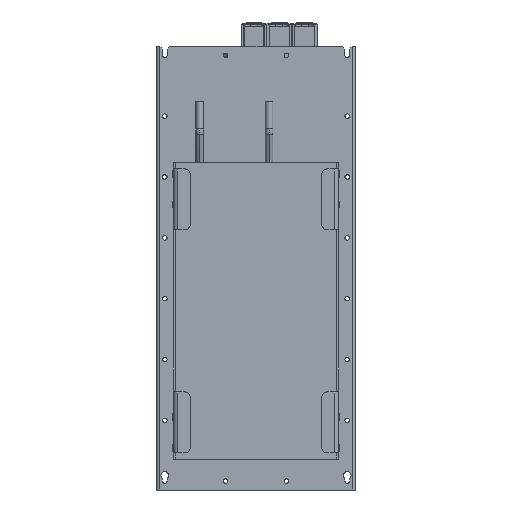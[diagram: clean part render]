
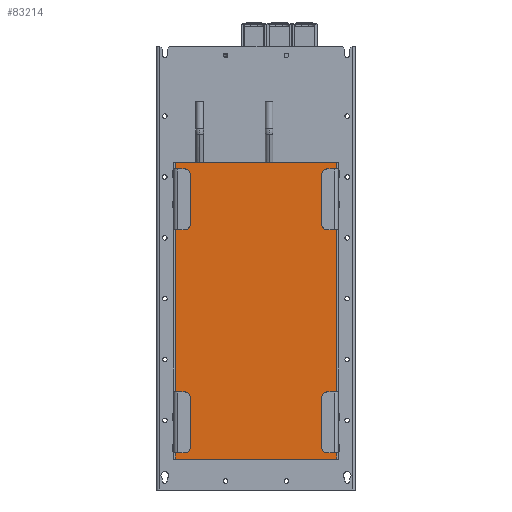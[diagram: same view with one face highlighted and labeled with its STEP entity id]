
A CAD part, front view. The second image highlights one B-rep face of the part: STEP entity #83214.
In plain terms, the highlighted planar face has unit normal (0, -1, 0).
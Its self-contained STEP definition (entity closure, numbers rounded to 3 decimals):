
#1745 = CARTESIAN_POINT ( 'NONE',  ( -159., 0., 12.5 ) ) ;
#3684 = EDGE_CURVE ( 'NONE', #83213, #84355, #56949, .T. ) ;
#4075 = VECTOR ( 'NONE', #72532, 1000. ) ;
#6807 = VECTOR ( 'NONE', #24276, 1000. ) ;
#8204 = ORIENTED_EDGE ( 'NONE', *, *, #37003, .T. ) ;
#12255 = CARTESIAN_POINT ( 'NONE',  ( 159., 0., 12.5 ) ) ;
#12700 = LINE ( 'NONE', #40922, #63503 ) ;
#12730 = EDGE_CURVE ( 'NONE', #70571, #30695, #42264, .T. ) ;
#15213 = DIRECTION ( 'NONE',  ( 0., 0., -1. ) ) ;
#15416 = CARTESIAN_POINT ( 'NONE',  ( 159., 0., 585.001 ) ) ;
#16890 = VECTOR ( 'NONE', #24457, 1000. ) ;
#18080 = CARTESIAN_POINT ( 'NONE',  ( 159., 0., 585.001 ) ) ;
#19658 = DIRECTION ( 'NONE',  ( 0., 0., -1. ) ) ;
#24212 = CARTESIAN_POINT ( 'NONE',  ( -159., 0., 585. ) ) ;
#24276 = DIRECTION ( 'NONE',  ( 0., 0., -1. ) ) ;
#24377 = VERTEX_POINT ( 'NONE', #74517 ) ;
#24457 = DIRECTION ( 'NONE',  ( 0., 0., -1. ) ) ;
#24550 = LINE ( 'NONE', #18080, #4075 ) ;
#24606 = VERTEX_POINT ( 'NONE', #70776 ) ;
#25439 = VERTEX_POINT ( 'NONE', #71923 ) ;
#27460 = EDGE_CURVE ( 'NONE', #30695, #73196, #88755, .T. ) ;
#28075 = CARTESIAN_POINT ( 'NONE',  ( -159., 0., 0. ) ) ;
#30246 = CARTESIAN_POINT ( 'NONE',  ( -159., 0., 452.5 ) ) ;
#30695 = VERTEX_POINT ( 'NONE', #70547 ) ;
#31678 = DIRECTION ( 'NONE',  ( 1., 0., 0. ) ) ;
#33538 = VERTEX_POINT ( 'NONE', #24212 ) ;
#34649 = EDGE_CURVE ( 'NONE', #33538, #25439, #53885, .T. ) ;
#34819 = DIRECTION ( 'NONE',  ( 0., 0., -1. ) ) ;
#35897 = LINE ( 'NONE', #51090, #84822 ) ;
#37003 = EDGE_CURVE ( 'NONE', #44038, #52216, #44359, .T. ) ;
#37406 = ORIENTED_EDGE ( 'NONE', *, *, #72353, .F. ) ;
#39243 = DIRECTION ( 'NONE',  ( 1., 0., 0. ) ) ;
#40365 = VECTOR ( 'NONE', #15213, 1000. ) ;
#40668 = ORIENTED_EDGE ( 'NONE', *, *, #55358, .F. ) ;
#40922 = CARTESIAN_POINT ( 'NONE',  ( -159., 0., 585.001 ) ) ;
#42067 = LINE ( 'NONE', #42984, #40365 ) ;
#42134 = VERTEX_POINT ( 'NONE', #49756 ) ;
#42264 = LINE ( 'NONE', #15416, #58395 ) ;
#42984 = CARTESIAN_POINT ( 'NONE',  ( -159., 0., 585.001 ) ) ;
#43265 = DIRECTION ( 'NONE',  ( 0., 0., -1. ) ) ;
#44038 = VERTEX_POINT ( 'NONE', #58777 ) ;
#44359 = LINE ( 'NONE', #72896, #16890 ) ;
#45722 = CARTESIAN_POINT ( 'NONE',  ( 0., 0., 0. ) ) ;
#46748 = ORIENTED_EDGE ( 'NONE', *, *, #3684, .T. ) ;
#46926 = LINE ( 'NONE', #60279, #88033 ) ;
#49756 = CARTESIAN_POINT ( 'NONE',  ( 159., 0., 572.5 ) ) ;
#51090 = CARTESIAN_POINT ( 'NONE',  ( 159., 0., 585.001 ) ) ;
#52216 = VERTEX_POINT ( 'NONE', #30246 ) ;
#52253 = EDGE_CURVE ( 'NONE', #33538, #44038, #59815, .T. ) ;
#53885 = LINE ( 'NONE', #88023, #89443 ) ;
#55358 = EDGE_CURVE ( 'NONE', #42134, #24377, #46926, .T. ) ;
#55968 = ORIENTED_EDGE ( 'NONE', *, *, #12730, .F. ) ;
#56949 = LINE ( 'NONE', #62940, #65813 ) ;
#57784 = VECTOR ( 'NONE', #86906, 1000. ) ;
#58395 = VECTOR ( 'NONE', #84680, 1000. ) ;
#58777 = CARTESIAN_POINT ( 'NONE',  ( -159., 0., 572.5 ) ) ;
#59222 = CARTESIAN_POINT ( 'NONE',  ( -163., 0., 0. ) ) ;
#59379 = ORIENTED_EDGE ( 'NONE', *, *, #75524, .T. ) ;
#59815 = LINE ( 'NONE', #87519, #6807 ) ;
#59981 = AXIS2_PLACEMENT_3D ( 'NONE', #45722, #66833, #39243 ) ;
#60151 = DIRECTION ( 'NONE',  ( 0., 0., -1. ) ) ;
#60279 = CARTESIAN_POINT ( 'NONE',  ( 159., 0., 585.001 ) ) ;
#60878 = FACE_OUTER_BOUND ( 'NONE', #82970, .T. ) ;
#61422 = EDGE_CURVE ( 'NONE', #24377, #24606, #35897, .T. ) ;
#62940 = CARTESIAN_POINT ( 'NONE',  ( -159., 0., 585.001 ) ) ;
#63503 = VECTOR ( 'NONE', #68981, 1000. ) ;
#64663 = ORIENTED_EDGE ( 'NONE', *, *, #52253, .T. ) ;
#65002 = ORIENTED_EDGE ( 'NONE', *, *, #34649, .F. ) ;
#65813 = VECTOR ( 'NONE', #34819, 1000. ) ;
#66833 = DIRECTION ( 'NONE',  ( 0., -1., 0. ) ) ;
#68981 = DIRECTION ( 'NONE',  ( 0., 0., -1. ) ) ;
#69468 = VECTOR ( 'NONE', #60151, 1000. ) ;
#70547 = CARTESIAN_POINT ( 'NONE',  ( 159., 0., 0. ) ) ;
#70571 = VERTEX_POINT ( 'NONE', #12255 ) ;
#70776 = CARTESIAN_POINT ( 'NONE',  ( 159., 0., 132.5 ) ) ;
#71582 = ORIENTED_EDGE ( 'NONE', *, *, #61422, .F. ) ;
#71923 = CARTESIAN_POINT ( 'NONE',  ( 159., 0., 585. ) ) ;
#72353 = EDGE_CURVE ( 'NONE', #24606, #70571, #24550, .T. ) ;
#72532 = DIRECTION ( 'NONE',  ( 0., 0., -1. ) ) ;
#72896 = CARTESIAN_POINT ( 'NONE',  ( -159., 0., 572.5 ) ) ;
#73196 = VERTEX_POINT ( 'NONE', #28075 ) ;
#73519 = LINE ( 'NONE', #86936, #69468 ) ;
#74517 = CARTESIAN_POINT ( 'NONE',  ( 159., 0., 452.5 ) ) ;
#74697 = PLANE ( 'NONE',  #59981 ) ;
#75524 = EDGE_CURVE ( 'NONE', #52216, #83213, #42067, .T. ) ;
#82085 = CARTESIAN_POINT ( 'NONE',  ( -159., 0., 132.5 ) ) ;
#82970 = EDGE_LOOP ( 'NONE', ( #64663, #8204, #59379, #46748, #84686, #85821, #55968, #37406, #71582, #40668, #88209, #65002 ) ) ;
#83213 = VERTEX_POINT ( 'NONE', #82085 ) ;
#83214 = ADVANCED_FACE ( 'NONE', ( #60878 ), #74697, .T. ) ;
#84355 = VERTEX_POINT ( 'NONE', #1745 ) ;
#84680 = DIRECTION ( 'NONE',  ( 0., 0., -1. ) ) ;
#84686 = ORIENTED_EDGE ( 'NONE', *, *, #88763, .T. ) ;
#84822 = VECTOR ( 'NONE', #43265, 1000. ) ;
#85821 = ORIENTED_EDGE ( 'NONE', *, *, #27460, .F. ) ;
#86906 = DIRECTION ( 'NONE',  ( -1., 0., 0. ) ) ;
#86936 = CARTESIAN_POINT ( 'NONE',  ( 159., 0., 585.001 ) ) ;
#87519 = CARTESIAN_POINT ( 'NONE',  ( -159., 0., 585.001 ) ) ;
#88023 = CARTESIAN_POINT ( 'NONE',  ( -163., 0., 585. ) ) ;
#88033 = VECTOR ( 'NONE', #19658, 1000. ) ;
#88209 = ORIENTED_EDGE ( 'NONE', *, *, #89879, .F. ) ;
#88755 = LINE ( 'NONE', #59222, #57784 ) ;
#88763 = EDGE_CURVE ( 'NONE', #84355, #73196, #12700, .T. ) ;
#89443 = VECTOR ( 'NONE', #31678, 1000. ) ;
#89879 = EDGE_CURVE ( 'NONE', #25439, #42134, #73519, .T. ) ;
